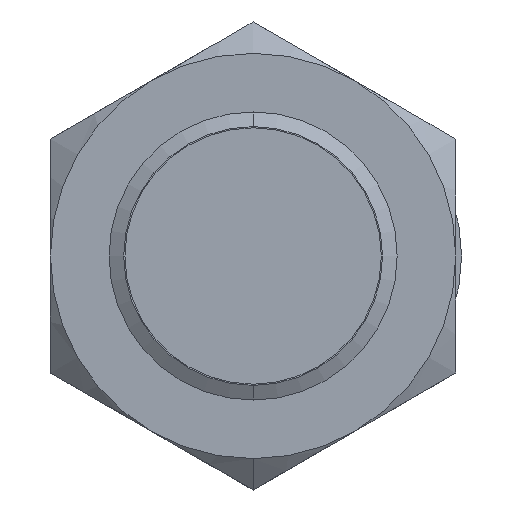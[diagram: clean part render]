
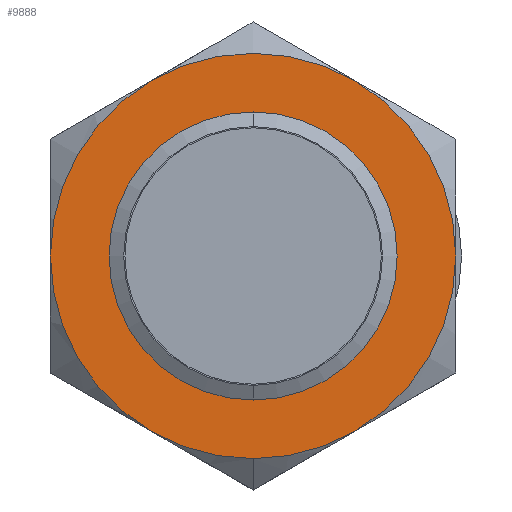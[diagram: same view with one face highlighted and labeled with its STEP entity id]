
A CAD part, left-side view. The second image highlights one B-rep face of the part: STEP entity #9888.
In plain terms, the highlighted planar face has unit normal (-1, 0, 0).
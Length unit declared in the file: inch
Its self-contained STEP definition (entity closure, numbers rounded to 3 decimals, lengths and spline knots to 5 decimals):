
#124 = VERTEX_POINT ( 'NONE', #4313 ) ;
#364 = ORIENTED_EDGE ( 'NONE', *, *, #6921, .F. ) ;
#674 = VERTEX_POINT ( 'NONE', #4561 ) ;
#922 = VERTEX_POINT ( 'NONE', #4671 ) ;
#948 = ORIENTED_EDGE ( 'NONE', *, *, #4682, .F. ) ;
#1158 = EDGE_CURVE ( 'NONE', #922, #674, #4835, .T. ) ;
#1436 = EDGE_CURVE ( 'NONE', #124, #2868, #4926, .T. ) ;
#1516 = ORIENTED_EDGE ( 'NONE', *, *, #7995, .F. ) ;
#2087 = ORIENTED_EDGE ( 'NONE', *, *, #1436, .F. ) ;
#2411 = ORIENTED_EDGE ( 'NONE', *, *, #13284, .F. ) ;
#2555 = ORIENTED_EDGE ( 'NONE', *, *, #3318, .F. ) ;
#2868 = VERTEX_POINT ( 'NONE', #6901 ) ;
#2990 = VERTEX_POINT ( 'NONE', #7081 ) ;
#3046 = VERTEX_POINT ( 'NONE', #7170 ) ;
#3098 = EDGE_CURVE ( 'NONE', #3046, #2990, #7267, .T. ) ;
#3318 = EDGE_CURVE ( 'NONE', #12149, #3046, #7919, .T. ) ;
#3553 = VERTEX_POINT ( 'NONE', #8464 ) ;
#4313 = CARTESIAN_POINT ( 'NONE',  ( 0.81804, 0.166, 0.28752 ) ) ;
#4561 = CARTESIAN_POINT ( 'NONE',  ( 0.81804, 0., 0.231 ) ) ;
#4671 = CARTESIAN_POINT ( 'NONE',  ( 0.81804, 0., -0.231 ) ) ;
#4682 = EDGE_CURVE ( 'NONE', #5548, #3553, #11471, .T. ) ;
#4835 = CIRCLE ( 'NONE', #4836, 0.231 ) ;
#4836 = AXIS2_PLACEMENT_3D ( 'NONE', #4837, #4838, #4839 ) ;
#4837 = CARTESIAN_POINT ( 'NONE',  ( 0.81804, 0., 0. ) ) ;
#4838 = DIRECTION ( 'NONE',  ( -1., 0., 0. ) ) ;
#4839 = DIRECTION ( 'NONE',  ( 0., 0., -1. ) ) ;
#4926 = CIRCLE ( 'NONE', #4927, 0.332 ) ;
#4927 = AXIS2_PLACEMENT_3D ( 'NONE', #4928, #4929, #4930 ) ;
#4928 = CARTESIAN_POINT ( 'NONE',  ( 0.81804, 0., 0. ) ) ;
#4929 = DIRECTION ( 'NONE',  ( 1., 0., 0. ) ) ;
#4930 = DIRECTION ( 'NONE',  ( 0., 1., 0. ) ) ;
#5548 = VERTEX_POINT ( 'NONE', #11831 ) ;
#6901 = CARTESIAN_POINT ( 'NONE',  ( 0.81804, -0.166, 0.28752 ) ) ;
#6921 = EDGE_CURVE ( 'NONE', #2990, #5548, #12704, .T. ) ;
#7081 = CARTESIAN_POINT ( 'NONE',  ( 0.81804, 0., -0.332 ) ) ;
#7170 = CARTESIAN_POINT ( 'NONE',  ( 0.81804, -0.166, -0.28752 ) ) ;
#7267 = CIRCLE ( 'NONE', #7268, 0.332 ) ;
#7268 = AXIS2_PLACEMENT_3D ( 'NONE', #7269, #7270, #7271 ) ;
#7269 = CARTESIAN_POINT ( 'NONE',  ( 0.81804, 0., 0. ) ) ;
#7270 = DIRECTION ( 'NONE',  ( 1., 0., 0. ) ) ;
#7271 = DIRECTION ( 'NONE',  ( 0., 0., -1. ) ) ;
#7698 = ORIENTED_EDGE ( 'NONE', *, *, #3098, .F. ) ;
#7919 = CIRCLE ( 'NONE', #7920, 0.332 ) ;
#7920 = AXIS2_PLACEMENT_3D ( 'NONE', #7921, #7922, #7923 ) ;
#7921 = CARTESIAN_POINT ( 'NONE',  ( 0.81804, 0., 0. ) ) ;
#7922 = DIRECTION ( 'NONE',  ( 1., 0., 0. ) ) ;
#7923 = DIRECTION ( 'NONE',  ( 0., 0., -1. ) ) ;
#7995 = EDGE_CURVE ( 'NONE', #3553, #124, #13085, .T. ) ;
#8257 = EDGE_LOOP ( 'NONE', ( #7698, #2555, #2411, #2087, #1516, #948, #364 ) ) ;
#8464 = CARTESIAN_POINT ( 'NONE',  ( 0.81804, 0.332, 0. ) ) ;
#8516 = ORIENTED_EDGE ( 'NONE', *, *, #11649, .F. ) ;
#8578 = CIRCLE ( 'NONE', #8579, 0.231 ) ;
#8579 = AXIS2_PLACEMENT_3D ( 'NONE', #8580, #8581, #8582 ) ;
#8580 = CARTESIAN_POINT ( 'NONE',  ( 0.81804, 0., 0. ) ) ;
#8581 = DIRECTION ( 'NONE',  ( -1., 0., 0. ) ) ;
#8582 = DIRECTION ( 'NONE',  ( 0., 0., -1. ) ) ;
#9066 = ORIENTED_EDGE ( 'NONE', *, *, #1158, .F. ) ;
#9074 = CARTESIAN_POINT ( 'NONE',  ( 0.81804, -0.332, 0. ) ) ;
#9630 = EDGE_LOOP ( 'NONE', ( #9066, #8516 ) ) ;
#9888 = ADVANCED_FACE ( 'NONE', ( #13765, #13766 ), #13767, .F. ) ;
#10016 = CIRCLE ( 'NONE', #10017, 0.332 ) ;
#10017 = AXIS2_PLACEMENT_3D ( 'NONE', #10018, #10019, #10020 ) ;
#10018 = CARTESIAN_POINT ( 'NONE',  ( 0.81804, 0., 0. ) ) ;
#10019 = DIRECTION ( 'NONE',  ( 1., 0., 0. ) ) ;
#10020 = DIRECTION ( 'NONE',  ( 0., 1., 0. ) ) ;
#11471 = CIRCLE ( 'NONE', #11472, 0.332 ) ;
#11472 = AXIS2_PLACEMENT_3D ( 'NONE', #11473, #11474, #11475 ) ;
#11473 = CARTESIAN_POINT ( 'NONE',  ( 0.81804, 0., 0. ) ) ;
#11474 = DIRECTION ( 'NONE',  ( 1., 0., 0. ) ) ;
#11475 = DIRECTION ( 'NONE',  ( 0., 0., -1. ) ) ;
#11649 = EDGE_CURVE ( 'NONE', #674, #922, #8578, .T. ) ;
#11831 = CARTESIAN_POINT ( 'NONE',  ( 0.81804, 0.166, -0.28752 ) ) ;
#12149 = VERTEX_POINT ( 'NONE', #9074 ) ;
#12704 = CIRCLE ( 'NONE', #12705, 0.332 ) ;
#12705 = AXIS2_PLACEMENT_3D ( 'NONE', #12706, #12707, #12708 ) ;
#12706 = CARTESIAN_POINT ( 'NONE',  ( 0.81804, 0., 0. ) ) ;
#12707 = DIRECTION ( 'NONE',  ( 1., 0., 0. ) ) ;
#12708 = DIRECTION ( 'NONE',  ( 0., 0., -1. ) ) ;
#13085 = CIRCLE ( 'NONE', #13086, 0.332 ) ;
#13086 = AXIS2_PLACEMENT_3D ( 'NONE', #13087, #13088, #13089 ) ;
#13087 = CARTESIAN_POINT ( 'NONE',  ( 0.81804, 0., 0. ) ) ;
#13088 = DIRECTION ( 'NONE',  ( 1., 0., 0. ) ) ;
#13089 = DIRECTION ( 'NONE',  ( 0., 0., -1. ) ) ;
#13284 = EDGE_CURVE ( 'NONE', #2868, #12149, #10016, .T. ) ;
#13765 = FACE_BOUND ( 'NONE', #9630, .T. ) ;
#13766 = FACE_OUTER_BOUND ( 'NONE', #8257, .T. ) ;
#13767 = PLANE ( 'NONE',  #13768 ) ;
#13768 = AXIS2_PLACEMENT_3D ( 'NONE', #13775, #13776, #13777 ) ;
#13775 = CARTESIAN_POINT ( 'NONE',  ( 0.81804, 0., 0. ) ) ;
#13776 = DIRECTION ( 'NONE',  ( 1., 0., 0. ) ) ;
#13777 = DIRECTION ( 'NONE',  ( 0., 0., -1. ) ) ;
